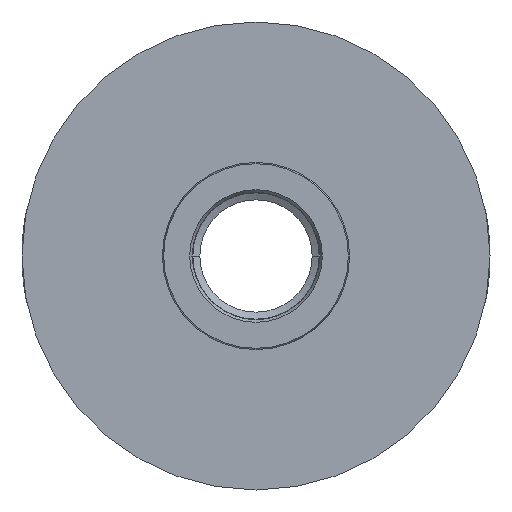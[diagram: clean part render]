
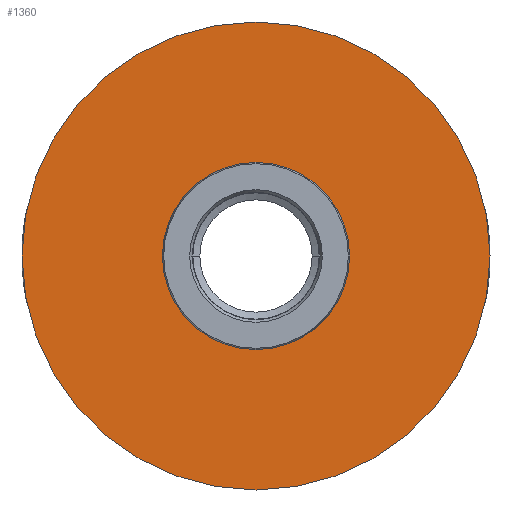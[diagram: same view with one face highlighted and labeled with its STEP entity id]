
A CAD part, front view. The second image highlights one B-rep face of the part: STEP entity #1360.
In plain terms, the highlighted planar face has unit normal (0, -1, 0).
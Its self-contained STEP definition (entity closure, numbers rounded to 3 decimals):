
#78 = PLANE ( 'NONE',  #1926 ) ;
#143 = ORIENTED_EDGE ( 'NONE', *, *, #787, .T. ) ;
#244 = CARTESIAN_POINT ( 'NONE',  ( 0., 0., 0. ) ) ;
#300 = EDGE_LOOP ( 'NONE', ( #2246, #143 ) ) ;
#317 = CARTESIAN_POINT ( 'NONE',  ( 0., 0., 0. ) ) ;
#442 = DIRECTION ( 'NONE',  ( 0., 0., 1. ) ) ;
#457 = ORIENTED_EDGE ( 'NONE', *, *, #1601, .F. ) ;
#460 = CARTESIAN_POINT ( 'NONE',  ( 0., 0., 20. ) ) ;
#712 = AXIS2_PLACEMENT_3D ( 'NONE', #1962, #747, #1583 ) ;
#747 = DIRECTION ( 'NONE',  ( 0., 1., 0. ) ) ;
#787 = EDGE_CURVE ( 'NONE', #1653, #1689, #1850, .T. ) ;
#831 = CARTESIAN_POINT ( 'NONE',  ( 0., 0., -50. ) ) ;
#860 = CIRCLE ( 'NONE', #1857, 50. ) ;
#931 = CARTESIAN_POINT ( 'NONE',  ( 0., 0., 50. ) ) ;
#973 = EDGE_CURVE ( 'NONE', #1415, #1279, #2073, .T. ) ;
#1279 = VERTEX_POINT ( 'NONE', #831 ) ;
#1309 = DIRECTION ( 'NONE',  ( 0., 1., 0. ) ) ;
#1360 = ADVANCED_FACE ( 'NONE', ( #1909, #1365 ), #78, .F. ) ;
#1365 = FACE_BOUND ( 'NONE', #300, .T. ) ;
#1373 = EDGE_CURVE ( 'NONE', #1689, #1653, #2453, .T. ) ;
#1414 = DIRECTION ( 'NONE',  ( 0., 0., 1. ) ) ;
#1415 = VERTEX_POINT ( 'NONE', #931 ) ;
#1435 = CARTESIAN_POINT ( 'NONE',  ( 0., 0., -20. ) ) ;
#1583 = DIRECTION ( 'NONE',  ( 0., 0., 1. ) ) ;
#1601 = EDGE_CURVE ( 'NONE', #1279, #1415, #860, .T. ) ;
#1637 = DIRECTION ( 'NONE',  ( 0., 1., 0. ) ) ;
#1643 = CARTESIAN_POINT ( 'NONE',  ( 20., 0., 0. ) ) ;
#1653 = VERTEX_POINT ( 'NONE', #1435 ) ;
#1689 = VERTEX_POINT ( 'NONE', #460 ) ;
#1793 = AXIS2_PLACEMENT_3D ( 'NONE', #317, #1309, #1414 ) ;
#1850 = CIRCLE ( 'NONE', #712, 20. ) ;
#1852 = DIRECTION ( 'NONE',  ( 0., 1., 0. ) ) ;
#1857 = AXIS2_PLACEMENT_3D ( 'NONE', #244, #1637, #442 ) ;
#1909 = FACE_OUTER_BOUND ( 'NONE', #2522, .T. ) ;
#1926 = AXIS2_PLACEMENT_3D ( 'NONE', #1643, #1852, #2054 ) ;
#1962 = CARTESIAN_POINT ( 'NONE',  ( 0., 0., 0. ) ) ;
#2018 = ORIENTED_EDGE ( 'NONE', *, *, #973, .F. ) ;
#2054 = DIRECTION ( 'NONE',  ( 0., 0., 1. ) ) ;
#2073 = CIRCLE ( 'NONE', #2470, 50. ) ;
#2246 = ORIENTED_EDGE ( 'NONE', *, *, #1373, .T. ) ;
#2293 = CARTESIAN_POINT ( 'NONE',  ( 0., 0., 0. ) ) ;
#2301 = DIRECTION ( 'NONE',  ( 0., 1., 0. ) ) ;
#2453 = CIRCLE ( 'NONE', #1793, 20. ) ;
#2470 = AXIS2_PLACEMENT_3D ( 'NONE', #2293, #2301, #2486 ) ;
#2486 = DIRECTION ( 'NONE',  ( 0., 0., 1. ) ) ;
#2522 = EDGE_LOOP ( 'NONE', ( #2018, #457 ) ) ;
